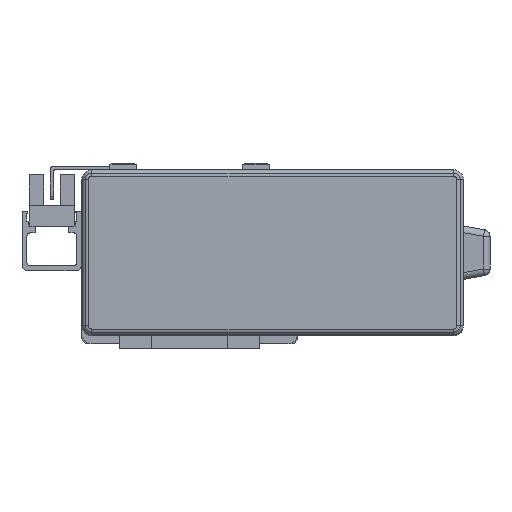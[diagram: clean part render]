
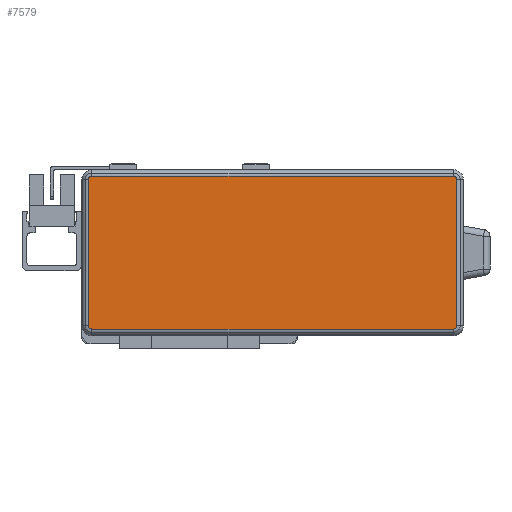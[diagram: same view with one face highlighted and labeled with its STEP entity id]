
A CAD part, left-side view. The second image highlights one B-rep face of the part: STEP entity #7579.
In plain terms, the highlighted planar face has unit normal (-1, 0, 0) as drawn and (0, 0, 1) by its records, which use the part's own axes.
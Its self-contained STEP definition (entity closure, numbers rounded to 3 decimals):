
#131 = CARTESIAN_POINT ( 'NONE',  ( -55.5, 22., 40. ) ) ;
#199 = LINE ( 'NONE', #2663, #5174 ) ;
#615 = DIRECTION ( 'NONE',  ( 0., 0., -1. ) ) ;
#639 = EDGE_CURVE ( 'NONE', #23712, #18947, #21157, .T. ) ;
#770 = CARTESIAN_POINT ( 'NONE',  ( -55.5, 0., 40. ) ) ;
#1369 = CARTESIAN_POINT ( 'NONE',  ( -55.5, -22., 40. ) ) ;
#1701 = DIRECTION ( 'NONE',  ( -1., 0., 0. ) ) ;
#1928 = AXIS2_PLACEMENT_3D ( 'NONE', #25992, #615, #15463 ) ;
#2530 = ORIENTED_EDGE ( 'NONE', *, *, #10917, .T. ) ;
#2663 = CARTESIAN_POINT ( 'NONE',  ( 55.5, 0., 40. ) ) ;
#2913 = DIRECTION ( 'NONE',  ( 0., -1., 0. ) ) ;
#3595 = AXIS2_PLACEMENT_3D ( 'NONE', #12377, #27185, #14533 ) ;
#3751 = ORIENTED_EDGE ( 'NONE', *, *, #22224, .T. ) ;
#4031 = LINE ( 'NONE', #770, #9649 ) ;
#4262 = ORIENTED_EDGE ( 'NONE', *, *, #639, .T. ) ;
#4703 = CARTESIAN_POINT ( 'NONE',  ( 55.5, -22., 40. ) ) ;
#5001 = VECTOR ( 'NONE', #7665, 1000. ) ;
#5074 = LINE ( 'NONE', #12076, #10040 ) ;
#5174 = VECTOR ( 'NONE', #23876, 1000. ) ;
#5223 = CARTESIAN_POINT ( 'NONE',  ( 54.5, -22., 40. ) ) ;
#5348 = EDGE_CURVE ( 'NONE', #8846, #7022, #11956, .T. ) ;
#5421 = VERTEX_POINT ( 'NONE', #22761 ) ;
#5549 = CARTESIAN_POINT ( 'NONE',  ( 0., 23., 40. ) ) ;
#5691 = DIRECTION ( 'NONE',  ( 0., 0., 1. ) ) ;
#6033 = EDGE_CURVE ( 'NONE', #5421, #8846, #6274, .T. ) ;
#6274 = CIRCLE ( 'NONE', #8981, 1. ) ;
#6303 = VERTEX_POINT ( 'NONE', #131 ) ;
#6415 = EDGE_CURVE ( 'NONE', #10255, #7511, #8916, .T. ) ;
#7022 = VERTEX_POINT ( 'NONE', #11305 ) ;
#7329 = DIRECTION ( 'NONE',  ( -1., 0., 0. ) ) ;
#7511 = VERTEX_POINT ( 'NONE', #4703 ) ;
#7579 = ADVANCED_FACE ( 'NONE', ( #18456 ), #11185, .F. ) ;
#7665 = DIRECTION ( 'NONE',  ( -1., 0., 0. ) ) ;
#8479 = CIRCLE ( 'NONE', #3595, 1. ) ;
#8846 = VERTEX_POINT ( 'NONE', #10330 ) ;
#8916 = CIRCLE ( 'NONE', #18406, 1. ) ;
#8981 = AXIS2_PLACEMENT_3D ( 'NONE', #18394, #5691, #20494 ) ;
#9061 = ORIENTED_EDGE ( 'NONE', *, *, #5348, .T. ) ;
#9649 = VECTOR ( 'NONE', #2913, 1000. ) ;
#10040 = VECTOR ( 'NONE', #22618, 1000. ) ;
#10255 = VERTEX_POINT ( 'NONE', #13238 ) ;
#10330 = CARTESIAN_POINT ( 'NONE',  ( 54.5, 23., 40. ) ) ;
#10917 = EDGE_CURVE ( 'NONE', #6303, #23712, #4031, .T. ) ;
#11185 = PLANE ( 'NONE',  #1928 ) ;
#11305 = CARTESIAN_POINT ( 'NONE',  ( -54.5, 23., 40. ) ) ;
#11956 = LINE ( 'NONE', #5549, #5001 ) ;
#12076 = CARTESIAN_POINT ( 'NONE',  ( 0., -23., 40. ) ) ;
#12377 = CARTESIAN_POINT ( 'NONE',  ( -54.5, 22., 40. ) ) ;
#13238 = CARTESIAN_POINT ( 'NONE',  ( 54.5, -23., 40. ) ) ;
#13646 = ORIENTED_EDGE ( 'NONE', *, *, #6033, .T. ) ;
#14423 = DIRECTION ( 'NONE',  ( 0., 0., 1. ) ) ;
#14533 = DIRECTION ( 'NONE',  ( -1., 0., 0. ) ) ;
#15463 = DIRECTION ( 'NONE',  ( -1., 0., 0. ) ) ;
#16702 = EDGE_CURVE ( 'NONE', #18947, #10255, #5074, .T. ) ;
#17613 = CARTESIAN_POINT ( 'NONE',  ( -54.5, -23., 40. ) ) ;
#18394 = CARTESIAN_POINT ( 'NONE',  ( 54.5, 22., 40. ) ) ;
#18406 = AXIS2_PLACEMENT_3D ( 'NONE', #5223, #20009, #7329 ) ;
#18456 = FACE_OUTER_BOUND ( 'NONE', #26166, .T. ) ;
#18947 = VERTEX_POINT ( 'NONE', #17613 ) ;
#20009 = DIRECTION ( 'NONE',  ( 0., 0., 1. ) ) ;
#20494 = DIRECTION ( 'NONE',  ( -1., 0., 0. ) ) ;
#21157 = CIRCLE ( 'NONE', #24310, 1. ) ;
#21200 = ORIENTED_EDGE ( 'NONE', *, *, #6415, .T. ) ;
#22224 = EDGE_CURVE ( 'NONE', #7511, #5421, #199, .T. ) ;
#22582 = EDGE_CURVE ( 'NONE', #7022, #6303, #8479, .T. ) ;
#22618 = DIRECTION ( 'NONE',  ( 1., 0., 0. ) ) ;
#22761 = CARTESIAN_POINT ( 'NONE',  ( 55.5, 22., 40. ) ) ;
#23306 = ORIENTED_EDGE ( 'NONE', *, *, #16702, .T. ) ;
#23712 = VERTEX_POINT ( 'NONE', #1369 ) ;
#23876 = DIRECTION ( 'NONE',  ( 0., 1., 0. ) ) ;
#24310 = AXIS2_PLACEMENT_3D ( 'NONE', #27091, #14423, #1701 ) ;
#25992 = CARTESIAN_POINT ( 'NONE',  ( 0., 0., 40. ) ) ;
#26166 = EDGE_LOOP ( 'NONE', ( #23306, #21200, #3751, #13646, #9061, #27459, #2530, #4262 ) ) ;
#27091 = CARTESIAN_POINT ( 'NONE',  ( -54.5, -22., 40. ) ) ;
#27185 = DIRECTION ( 'NONE',  ( 0., 0., 1. ) ) ;
#27459 = ORIENTED_EDGE ( 'NONE', *, *, #22582, .T. ) ;
